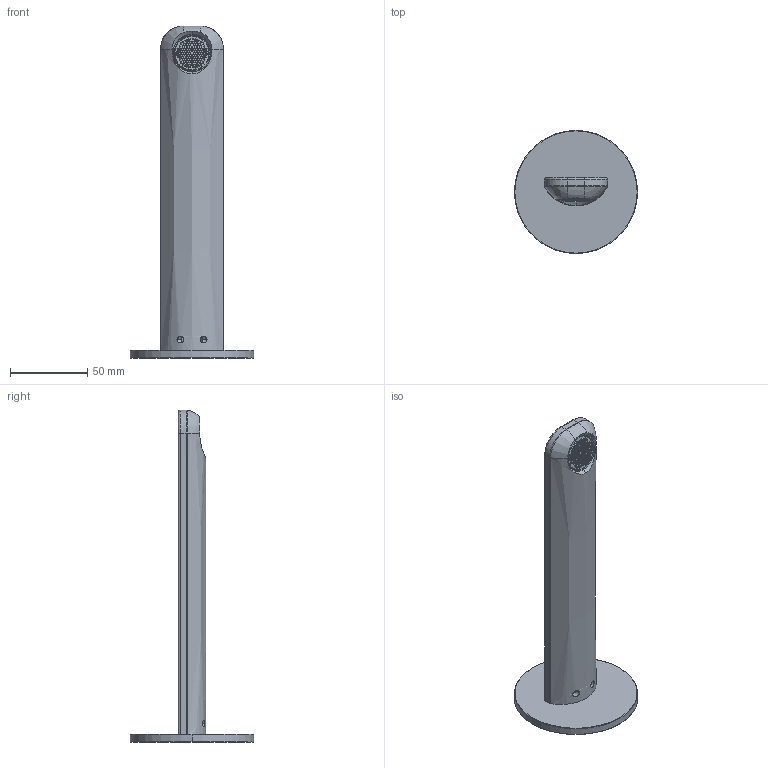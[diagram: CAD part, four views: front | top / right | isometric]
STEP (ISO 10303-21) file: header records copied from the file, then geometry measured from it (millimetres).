
FILE_DESCRIPTION((''),'2;1');
FILE_NAME('3DF_F2222','2022-03-11T10:27:53',('ivanv'),(''),'CREO PARAMETRIC BY PTC INC, 2021184','CREO PARAMETRIC BY PTC INC, 2021184','');
FILE_SCHEMA(('CONFIG_CONTROL_DESIGN'));
Products named in the file (1): 3DF_F2222
Bounding box: 80 x 80 x 215.5 mm (x, y, z)
Volume: 124036.5 mm3; surface area: 41875.9 mm2
Topology: 1 solids, 1 shells, 4771 faces, 13821 edges, 8969 vertices
Faces by surface type: plane 4225, cylinder 454, torus 36, cone 22, bspline 15, sphere 12, extrusion 7
Entity records: 181541 total; most frequent: CARTESIAN_POINT 68869, ORIENTED_EDGE 27606, DIRECTION 16202, EDGE_CURVE 13803, VERTEX_POINT 8969, B_SPLINE_CURVE_WITH_KNOTS 7547, EDGE_LOOP 5840, VECTOR 5836
